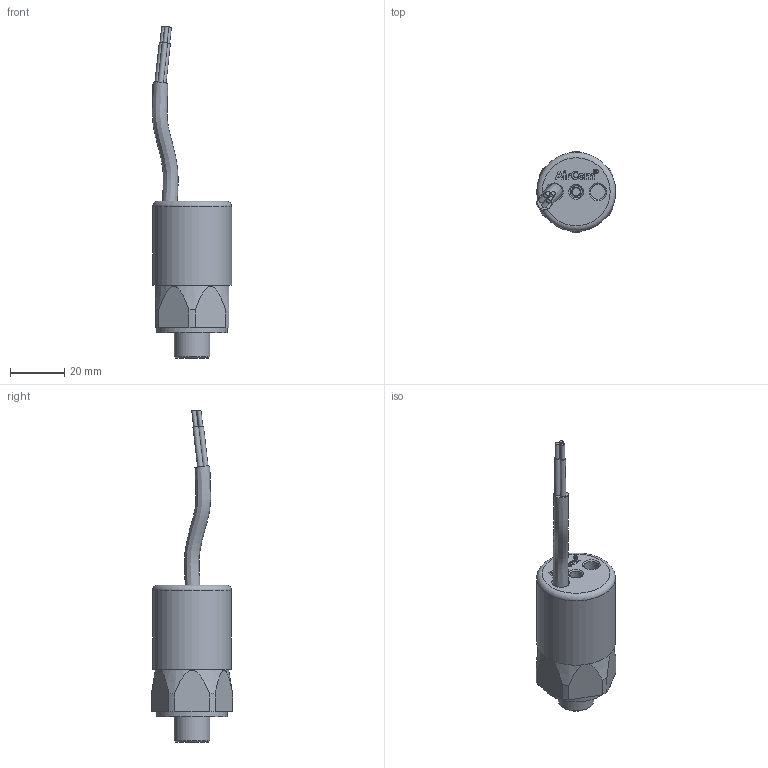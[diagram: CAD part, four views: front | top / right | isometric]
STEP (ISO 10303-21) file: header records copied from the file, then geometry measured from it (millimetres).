
FILE_DESCRIPTION((''),'2;1');
FILE_NAME('F:\AirCom-Produktdokumentation\Druckschalter\DS34\CAD\CAD AirCom\3D\B-DS34.stp','2008-10-15T16:46:40',('Frank Schroers'),(''),'Autodesk Inventor 2008','Autodesk Inventor 2008','');
FILE_SCHEMA(('AUTOMOTIVE_DESIGN { 1 0 10303 214 1 1 1 1 }'));
Length unit declared in the file: millimetre
Products named in the file (1): B-DS34-B
Bounding box: 29.12 x 29.89 x 122.03 mm (x, y, z)
Volume: 33076.3 mm3; surface area: 7608.5 mm2
Topology: 1 solids, 1 shells, 122 faces, 278 edges, 184 vertices
Faces by surface type: plane 79, cylinder 32, cone 7, bspline 3, torus 1
Full cylindrical faces by diameter (mm): 0.763 x1, 1.5 x3, 1.775 x1, 2 x3, 2.95 x1, 3 x1, 4.5 x1, 5.5 x1, 13.08 x1, 26 x1, 29 x1
Entity records: 3943 total; most frequent: CARTESIAN_POINT 1177, DIRECTION 559, ORIENTED_EDGE 502, EDGE_CURVE 251, AXIS2_PLACEMENT_3D 198, VERTEX_POINT 182, EDGE_LOOP 173, VECTOR 163
